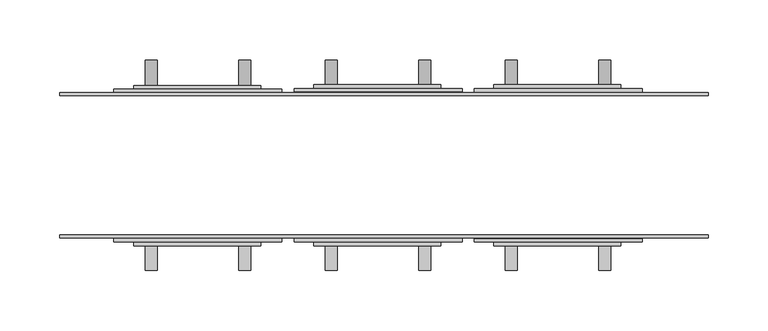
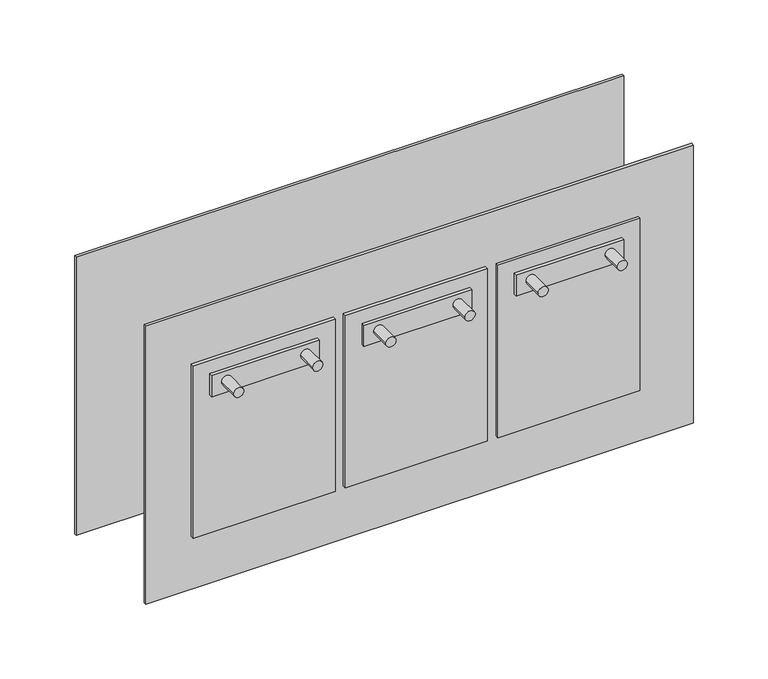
"""IFC4 building model written with IfcOpenShell, lengths in millimetres: proxy geometry, Distribution_Sockets : Distribution_Sockets."""

from ifc_helpers import new_model, si_unit, point, frame, frame_2d, origin, place, context, project, spatial, polyline, circle_curve, trimmed, segment, composite_curve, outline, extrude, source, transform, mapped, element, save


def electrical_equipment_2e28253e(model_context):
    return source(origin(), model_context, "Body", "SweptSolid", [
        extrude(outline(composite_curve([segment(trimmed(circle_curve(frame_2d((65.938994, -268.933241)), 5.0), [point((65.938994, -273.933241))], [point((65.938994, -263.933241))], False, "CARTESIAN"), True, "CONTINUOUS"), segment(trimmed(circle_curve(frame_2d((65.938994, -268.933241)), 5.0), [point((65.938994, -263.933241))], [point((65.938994, -273.933241))], False, "CARTESIAN"), True, "CONTINUOUS")], self_intersect=False)), frame((0.0, 67.0, 0.0), z_axis=(0.0, 1.0, 0.0), x_axis=(0.0, 0.0, 1.0)), (0.0, 0.0, 1.0), 20.9),
        extrude(outline(composite_curve([segment(trimmed(circle_curve(frame_2d((65.938994, -190.9375543)), 5.0), [point((65.938994, -195.9375543))], [point((65.938994, -185.9375543))], False, "CARTESIAN"), True, "CONTINUOUS"), segment(trimmed(circle_curve(frame_2d((65.938994, -190.9375543)), 5.0), [point((65.938994, -185.9375543))], [point((65.938994, -195.9375543))], False, "CARTESIAN"), True, "CONTINUOUS")], self_intersect=False)), frame((0.0, 67.0, 0.0), z_axis=(0.0, 1.0, 0.0), x_axis=(0.0, 0.0, 1.0)), (0.0, 0.0, 1.0), 20.9),
        extrude(outline(composite_curve([segment(trimmed(circle_curve(frame_2d((65.938994, -118.920841)), 5.0), [point((65.938994, -123.920841))], [point((65.938994, -113.920841))], False, "CARTESIAN"), True, "CONTINUOUS"), segment(trimmed(circle_curve(frame_2d((65.938994, -118.920841)), 5.0), [point((65.938994, -113.920841))], [point((65.938994, -123.920841))], False, "CARTESIAN"), True, "CONTINUOUS")], self_intersect=False)), frame((0.0, 67.0, 0.0), z_axis=(0.0, 1.0, 0.0), x_axis=(0.0, 0.0, 1.0)), (0.0, 0.0, 1.0), 20.9),
        extrude(outline(composite_curve([segment(trimmed(circle_curve(frame_2d((65.938994, -40.9251543)), 5.0), [point((65.938994, -45.9251543))], [point((65.938994, -35.9251543))], False, "CARTESIAN"), True, "CONTINUOUS"), segment(trimmed(circle_curve(frame_2d((65.938994, -40.9251543)), 5.0), [point((65.938994, -35.9251543))], [point((65.938994, -45.9251543))], False, "CARTESIAN"), True, "CONTINUOUS")], self_intersect=False)), frame((0.0, 67.0, 0.0), z_axis=(0.0, 1.0, 0.0), x_axis=(0.0, 0.0, 1.0)), (0.0, 0.0, 1.0), 20.9),
        extrude(outline(composite_curve([segment(trimmed(circle_curve(frame_2d((65.938994, 31.079159)), 5.0), [point((65.938994, 26.079159))], [point((65.938994, 36.079159))], False, "CARTESIAN"), True, "CONTINUOUS"), segment(trimmed(circle_curve(frame_2d((65.938994, 31.079159)), 5.0), [point((65.938994, 36.079159))], [point((65.938994, 26.079159))], False, "CARTESIAN"), True, "CONTINUOUS")], self_intersect=False)), frame((0.0, 67.0, 0.0), z_axis=(0.0, 1.0, 0.0), x_axis=(0.0, 0.0, 1.0)), (0.0, 0.0, 1.0), 20.9),
        extrude(outline(composite_curve([segment(trimmed(circle_curve(frame_2d((65.938994, 109.0748457)), 5.0), [point((65.938994, 104.0748457))], [point((65.938994, 114.0748457))], False, "CARTESIAN"), True, "CONTINUOUS"), segment(trimmed(circle_curve(frame_2d((65.938994, 109.0748457)), 5.0), [point((65.938994, 114.0748457))], [point((65.938994, 104.0748457))], False, "CARTESIAN"), True, "CONTINUOUS")], self_intersect=False)), frame((0.0, 67.0, 0.0), z_axis=(0.0, 1.0, 0.0), x_axis=(0.0, 0.0, 1.0)), (0.0, 0.0, 1.0), 20.9),
        extrude(outline(composite_curve([segment(trimmed(circle_curve(frame_2d((65.938994, -268.933241)), 5.0), [point((65.938994, -273.933241))], [point((65.938994, -263.933241))], False, "CARTESIAN"), True, "CONTINUOUS"), segment(trimmed(circle_curve(frame_2d((65.938994, -268.933241)), 5.0), [point((65.938994, -263.933241))], [point((65.938994, -273.933241))], False, "CARTESIAN"), True, "CONTINUOUS")], self_intersect=False)), frame((0.0, -87.9, 0.0), z_axis=(0.0, 1.0, 0.0), x_axis=(0.0, 0.0, 1.0)), (0.0, 0.0, 1.0), 20.9),
        extrude(outline(composite_curve([segment(trimmed(circle_curve(frame_2d((65.938994, -190.9375543)), 5.0), [point((65.938994, -195.9375543))], [point((65.938994, -185.9375543))], False, "CARTESIAN"), True, "CONTINUOUS"), segment(trimmed(circle_curve(frame_2d((65.938994, -190.9375543)), 5.0), [point((65.938994, -185.9375543))], [point((65.938994, -195.9375543))], False, "CARTESIAN"), True, "CONTINUOUS")], self_intersect=False)), frame((0.0, -87.9, 0.0), z_axis=(0.0, 1.0, 0.0), x_axis=(0.0, 0.0, 1.0)), (0.0, 0.0, 1.0), 20.9),
        extrude(outline(composite_curve([segment(trimmed(circle_curve(frame_2d((65.938994, -118.920841)), 5.0), [point((65.938994, -123.920841))], [point((65.938994, -113.920841))], False, "CARTESIAN"), True, "CONTINUOUS"), segment(trimmed(circle_curve(frame_2d((65.938994, -118.920841)), 5.0), [point((65.938994, -113.920841))], [point((65.938994, -123.920841))], False, "CARTESIAN"), True, "CONTINUOUS")], self_intersect=False)), frame((0.0, -87.9, 0.0), z_axis=(0.0, 1.0, 0.0), x_axis=(0.0, 0.0, 1.0)), (0.0, 0.0, 1.0), 20.9),
        extrude(outline(composite_curve([segment(trimmed(circle_curve(frame_2d((65.938994, -40.9251543)), 5.0), [point((65.938994, -45.9251543))], [point((65.938994, -35.9251543))], False, "CARTESIAN"), True, "CONTINUOUS"), segment(trimmed(circle_curve(frame_2d((65.938994, -40.9251543)), 5.0), [point((65.938994, -35.9251543))], [point((65.938994, -45.9251543))], False, "CARTESIAN"), True, "CONTINUOUS")], self_intersect=False)), frame((0.0, -87.9, 0.0), z_axis=(0.0, 1.0, 0.0), x_axis=(0.0, 0.0, 1.0)), (0.0, 0.0, 1.0), 20.9),
        extrude(outline(composite_curve([segment(trimmed(circle_curve(frame_2d((65.938994, 31.079159)), 5.0), [point((65.938994, 26.079159))], [point((65.938994, 36.079159))], False, "CARTESIAN"), True, "CONTINUOUS"), segment(trimmed(circle_curve(frame_2d((65.938994, 31.079159)), 5.0), [point((65.938994, 36.079159))], [point((65.938994, 26.079159))], False, "CARTESIAN"), True, "CONTINUOUS")], self_intersect=False)), frame((0.0, -87.9, 0.0), z_axis=(0.0, 1.0, 0.0), x_axis=(0.0, 0.0, 1.0)), (0.0, 0.0, 1.0), 20.9),
        extrude(outline(composite_curve([segment(trimmed(circle_curve(frame_2d((65.938994, 109.0748457)), 5.0), [point((65.938994, 104.0748457))], [point((65.938994, 114.0748457))], False, "CARTESIAN"), True, "CONTINUOUS"), segment(trimmed(circle_curve(frame_2d((65.938994, 109.0748457)), 5.0), [point((65.938994, 114.0748457))], [point((65.938994, 104.0748457))], False, "CARTESIAN"), True, "CONTINUOUS")], self_intersect=False)), frame((0.0, -87.9, 0.0), z_axis=(0.0, 1.0, 0.0), x_axis=(0.0, 0.0, 1.0)), (0.0, 0.0, 1.0), 20.9),
        extrude(outline(polyline([(-177.6321808, 66.6294997), (-177.6321808, 63.6294997), (-283.6322514, 63.6294997), (-283.6322514, 66.6294997), (-177.6321808, 66.6294997)])), frame((0.0, 0.0, 54.0), z_axis=(0.0, 0.0, 1.0), x_axis=(1.0, 0.0, 0.0)), (0.0, 0.0, 1.0), 22.0),
        extrude(outline(polyline([(-27.6196804, 67.3705036), (-27.6196804, 64.0000036), (-133.619751, 64.0000036), (-133.619751, 67.3705036), (-27.6196804, 67.3705036)])), frame((0.0, 0.0, 54.0), z_axis=(0.0, 0.0, 1.0), x_axis=(1.0, 0.0, 0.0)), (0.0, 0.0, 1.0), 22.0),
        extrude(outline(polyline([(122.3802833, 67.3704993), (122.3802833, 63.9999993), (16.3802127, 63.9999993), (16.3802127, 67.3704993), (122.3802833, 67.3704993)])), frame((0.0, 0.0, 54.0), z_axis=(0.0, 0.0, 1.0), x_axis=(1.0, 0.0, 0.0)), (0.0, 0.0, 1.0), 22.0),
        extrude(outline(polyline([(-177.6321808, -67.3704993), (-283.6322514, -67.3704993), (-283.6322514, -63.9999993), (-177.6321808, -63.9999993), (-177.6321808, -67.3704993)])), frame((0.0, 0.0, 54.0), z_axis=(0.0, 0.0, 1.0), x_axis=(1.0, 0.0, 0.0)), (0.0, 0.0, 1.0), 22.0),
        extrude(outline(polyline([(-27.6196804, -67.3705036), (-133.619751, -67.3705036), (-133.619751, -64.0000036), (-27.6196804, -64.0000036), (-27.6196804, -67.3705036)])), frame((0.0, 0.0, 54.0), z_axis=(0.0, 0.0, 1.0), x_axis=(1.0, 0.0, 0.0)), (0.0, 0.0, 1.0), 22.0),
        extrude(outline(polyline([(122.3802833, -67.3704993), (16.3802127, -67.3704993), (16.3802127, -63.9999993), (122.3802833, -63.9999993), (122.3802833, -67.3704993)])), frame((0.0, 0.0, 54.0), z_axis=(0.0, 0.0, 1.0), x_axis=(1.0, 0.0, 0.0)), (0.0, 0.0, 1.0), 22.0),
        extrude(outline(polyline([(-300.0123562, 63.6294997), (-160.012326, 63.6294997), (-160.012326, 60.6294997), (-300.0123562, 60.6294997), (-300.0123562, 63.6294997)])), frame((0.0, 0.0, -90.0), z_axis=(0.0, 0.0, 1.0), x_axis=(1.0, 0.0, 0.0)), (0.0, 0.0, 1.0), 180.0),
        extrude(outline(polyline([(-300.0123562, -64.0000022), (-300.0123562, -60.6295025), (-160.012326, -60.6295025), (-160.012326, -64.0000022), (-300.0123562, -64.0000022)])), frame((0.0, 0.0, -90.0), z_axis=(0.0, 0.0, 1.0), x_axis=(1.0, 0.0, 0.0)), (0.0, 0.0, 1.0), 180.0),
        extrude(outline(polyline([(-150.0000011, 63.9999971), (-9.999971, 63.9999971), (-9.999971, 61.3705), (-150.0000011, 61.3705), (-150.0000011, 63.9999971)])), frame((0.0, 0.0, -90.0), z_axis=(0.0, 0.0, 1.0), x_axis=(1.0, 0.0, 0.0)), (0.0, 0.0, 1.0), 180.0),
        extrude(outline(polyline([(-150.0000011, -64.0000022), (-150.0000011, -60.6295025), (-9.999971, -60.6295025), (-9.999971, -64.0000022), (-150.0000011, -64.0000022)])), frame((0.0, 0.0, -90.0), z_axis=(0.0, 0.0, 1.0), x_axis=(1.0, 0.0, 0.0)), (0.0, 0.0, 1.0), 180.0),
        extrude(outline(polyline([(2.48e-05, 63.9999993), (140.000055, 63.9999993), (140.000055, 60.6295015), (2.48e-05, 60.6295015), (2.48e-05, 63.9999993)])), frame((0.0, 0.0, -90.0), z_axis=(0.0, 0.0, 1.0), x_axis=(1.0, 0.0, 0.0)), (0.0, 0.0, 1.0), 180.0),
        extrude(outline(polyline([(2.48e-05, -64.0), (2.48e-05, -61.370498), (140.000055, -61.370498), (140.000055, -64.0), (2.48e-05, -64.0)])), frame((0.0, 0.0, -90.0), z_axis=(0.0, 0.0, 1.0), x_axis=(1.0, 0.0, 0.0)), (0.0, 0.0, 1.0), 180.0),
        extrude(outline(polyline([(195.0000172, 60.6294997), (195.0000172, 58.0), (-345.0048134, 58.0), (-345.0048134, 60.6294997), (195.0000172, 60.6294997)])), frame((0.0, 0.0, -145.0), z_axis=(0.0, 0.0, 1.0), x_axis=(1.0, 0.0, 0.0)), (0.0, 0.0, 1.0), 290.0),
        extrude(outline(polyline([(-345.0048134, -60.6295025), (-345.0048134, -58.0), (195.0000172, -58.0), (195.0000172, -60.6295025), (-345.0048134, -60.6295025)])), frame((0.0, 0.0, -145.0), z_axis=(0.0, 0.0, 1.0), x_axis=(1.0, 0.0, 0.0)), (0.0, 0.0, 1.0), 290.0),
    ])


if __name__ == "__main__":
    model = new_model("IFC4")
    model_context = context("Model", 3, world=origin())
    ifc_project = project(units=[si_unit("LENGTHUNIT", "METRE", prefix="MILLI")], contexts=[model_context])
    site = spatial("IfcSite", under=ifc_project)
    building = spatial("IfcBuilding", under=site)
    placement = place(None, origin())
    electrical_equipment_shape = electrical_equipment_2e28253e(model_context)
    element("IfcBuildingElementProxy", 1, Name="Distribution_Sockets : Distribution_Sockets", ObjectType="Distribution_Sockets : Distribution_Sockets", at=placement, inside=building, context=model_context, shape_type="MappedRepresentation", body=[
        mapped(electrical_equipment_shape, transform((0.0, 0.0, 0.0), x_axis=(1.0, 0.0, 0.0), y_axis=(0.0, 1.0, 0.0), z_axis=(0.0, 0.0, 1.0))),
    ])
    save(model, "model.ifc")
